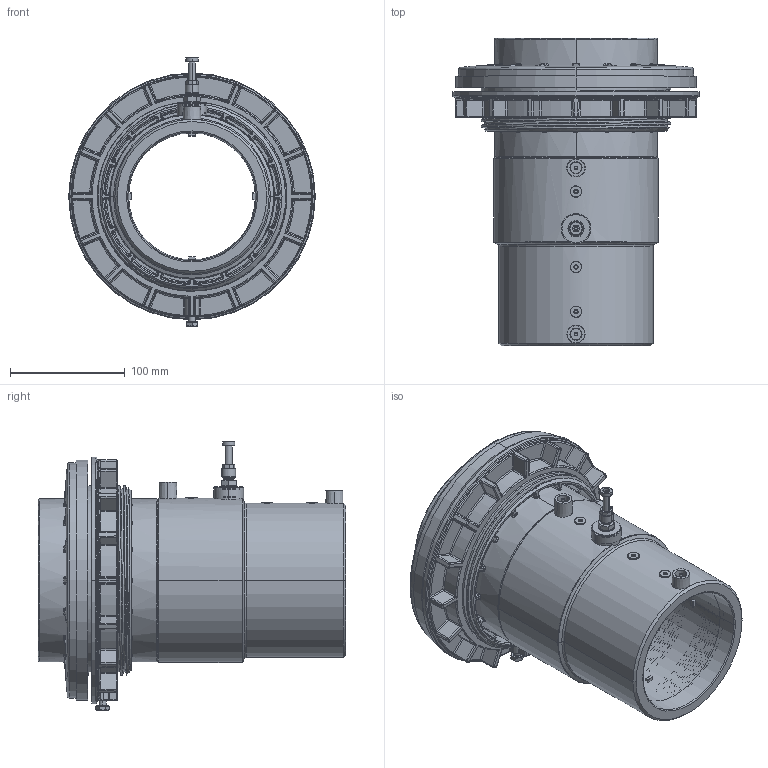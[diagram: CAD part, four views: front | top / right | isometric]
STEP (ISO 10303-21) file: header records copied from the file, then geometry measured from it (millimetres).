
FILE_DESCRIPTION (( 'STEP AP203' ), '1' );
FILE_NAME ('KPTM_125-110SC2B.step', '2011-08-08T11:43:34', ( '' ), ( '' ), 'SwSTEP 2.0', 'SolidWorks 2011', '' );
FILE_SCHEMA (( 'CONFIG_CONTROL_DESIGN' ));
Length unit declared in the file: millimetre
Products named in the file (1): KPTM_125-110SC2B
Bounding box: 215 x 268 x 233.7 mm (x, y, z)
Volume: 1580259.5 mm3; surface area: 506312.5 mm2
Topology: 2 solids, 9 shells, 2115 faces, 5062 edges, 2747 vertices
Faces by surface type: bspline 611, cylinder 512, plane 356, torus 247, sphere 216, cone 173
Entity records: 87740 total; most frequent: CARTESIAN_POINT 45453, ORIENTED_EDGE 9620, DIRECTION 8169, EDGE_CURVE 4810, AXIS2_PLACEMENT_3D 3567, VERTEX_POINT 2743, EDGE_LOOP 2169, FACE_OUTER_BOUND 2115
